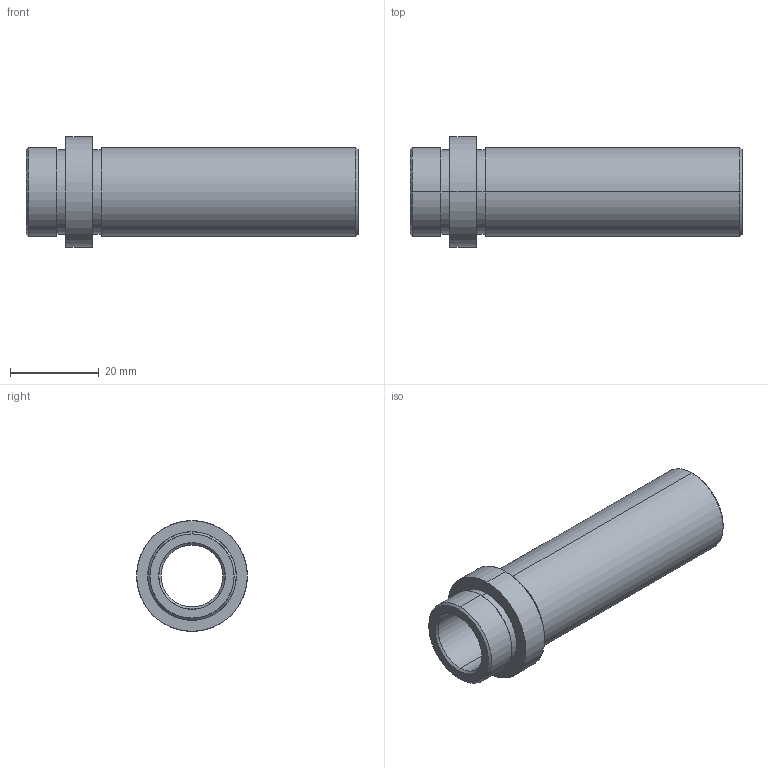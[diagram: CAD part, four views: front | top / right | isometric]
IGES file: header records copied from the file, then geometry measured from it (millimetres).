
Start section: SolidWorks IGES FILE using analytic representation for surfaces
Global section: file name: D:\zzzzz\Delta\D21\14\D21 - 14x66.IGS; native system: SolidWorks 2004 by SolidWorks Corporation; preprocessor: Version 5.3; author: Hkn; date: 080326.191305; units: millimetre
Bounding box: 75 x 25 x 25 mm (x, y, z)
Surface area: 8826.6 mm2 (no closed solid volume)
Topology: 0 solids, 0 shells, 26 faces, 464 edges, 464 vertices
Faces by surface type: revolution 20, bspline 6
